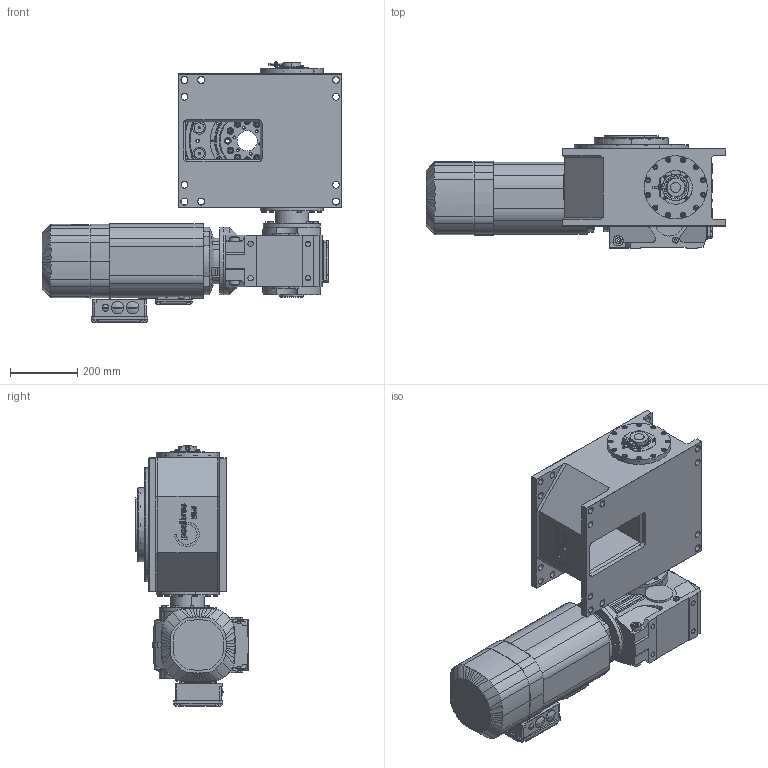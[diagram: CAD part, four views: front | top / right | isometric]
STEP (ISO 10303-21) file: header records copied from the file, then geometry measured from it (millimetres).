
FILE_DESCRIPTION (( 'STEP AP214' ), '1' );
FILE_NAME ('M340_SEW_KA77DRE132MC4BE11_D1_12.STEP', '2020-06-17T12:33:20', ( '' ), ( '' ), 'SwSTEP 2.0', 'SolidWorks 2020', '' );
FILE_SCHEMA (( 'AUTOMOTIVE_DESIGN' ));
Length unit declared in the file: millimetre
Products named in the file (1): M340_SEW_KA77DRE132MC4BE11_D1_12
Bounding box: 893 x 334 x 775.97 mm (x, y, z)
Surface area: 2355773.2 mm2 (no closed solid volume)
Topology: 0 solids, 148 shells, 1921 faces, 6014 edges, 4100 vertices
Faces by surface type: plane 915, cylinder 608, cone 203, bspline 95, torus 92, sphere 8
Entity records: 96716 total; most frequent: CARTESIAN_POINT 22938, DIRECTION 11123, ORIENTED_EDGE 9816, EDGE_CURVE 5966, VERTEX_POINT 4100, AXIS2_PLACEMENT_3D 3910, VECTOR 3303, LINE 3303
